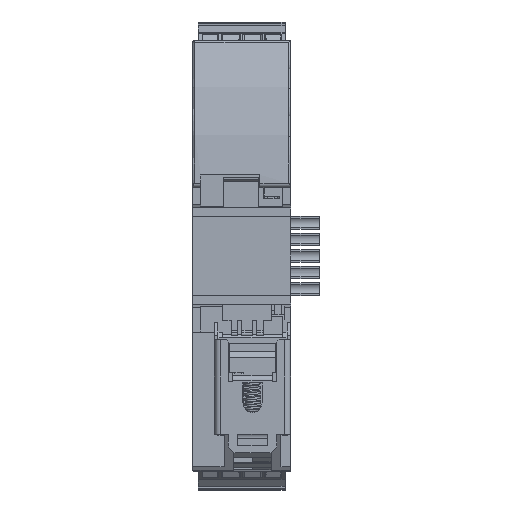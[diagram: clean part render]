
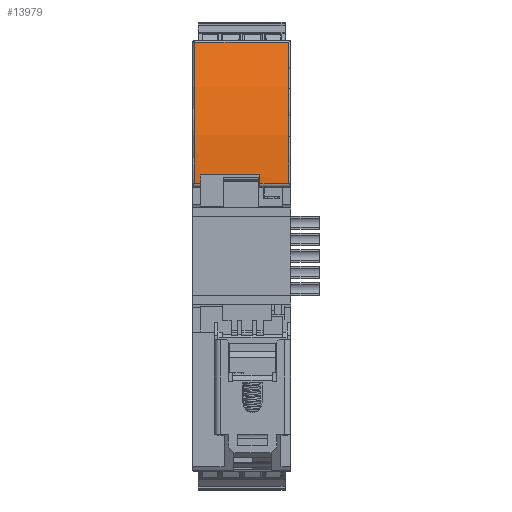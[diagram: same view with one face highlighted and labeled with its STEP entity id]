
A CAD part, left-side view. The second image highlights one B-rep face of the part: STEP entity #13979.
In plain terms, the highlighted cylindrical face has radius 80 mm (diameter 160 mm), a partial arc.
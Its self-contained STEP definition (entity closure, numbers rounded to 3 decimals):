
#13979=ADVANCED_FACE('',(#56900),#56902,.T.);
#56900=FACE_BOUND('',#56901,.T.);
#56901=EDGE_LOOP('',(#100812,#100813,#100814,#100815,#100816,#100817,#100818,#100819));
#56902=CYLINDRICAL_SURFACE('',#56903,80.);
#56903=AXIS2_PLACEMENT_3D('',#56904,#56905,#56906);
#56904=CARTESIAN_POINT('',(75.75,12.1,13.5));
#56905=DIRECTION('',(0.,-1.,0.));
#56906=DIRECTION('',(0.,0.,-1.));
#100812=ORIENTED_EDGE('',*,*,#129116,.F.);
#100813=ORIENTED_EDGE('',*,*,#129552,.T.);
#100814=ORIENTED_EDGE('',*,*,#129553,.F.);
#100815=ORIENTED_EDGE('',*,*,#124466,.F.);
#100816=ORIENTED_EDGE('',*,*,#124463,.T.);
#100817=ORIENTED_EDGE('',*,*,#129551,.T.);
#100818=ORIENTED_EDGE('',*,*,#124585,.T.);
#100819=ORIENTED_EDGE('',*,*,#124583,.T.);
#124463=EDGE_CURVE('',#142462,#142463,#142464,.T.);
#124466=EDGE_CURVE('',#142462,#142467,#142468,.T.);
#124583=EDGE_CURVE('',#142657,#142655,#142658,.T.);
#124585=EDGE_CURVE('',#142660,#142657,#142661,.T.);
#129116=EDGE_CURVE('',#150427,#142655,#150429,.T.);
#129551=EDGE_CURVE('',#142463,#142660,#151157,.T.);
#129552=EDGE_CURVE('',#150427,#151158,#151159,.T.);
#129553=EDGE_CURVE('',#142467,#151158,#151160,.T.);
#142462=VERTEX_POINT('',#178834);
#142463=VERTEX_POINT('',#178835);
#142464=CIRCLE('',#178836,80.);
#142467=VERTEX_POINT('',#178898);
#142468=LINE('',#178899,#178900);
#142655=VERTEX_POINT('',#179333);
#142657=VERTEX_POINT('',#179338);
#142658=LINE('',#179339,#179340);
#142660=VERTEX_POINT('',#179390);
#142661=CIRCLE('',#179391,80.);
#150427=VERTEX_POINT('',#198464);
#150429=CIRCLE('',#198468,80.);
#151157=LINE('',#200142,#200143);
#151158=VERTEX_POINT('',#200145);
#151159=LINE('',#200146,#200147);
#151160=CIRCLE('',#200149,80.);
#178834=CARTESIAN_POINT('',(-4.184,0.5,16.741));
#178835=CARTESIAN_POINT('',(4.169,0.5,49.223));
#178836=AXIS2_PLACEMENT_3D('',#178837,#178838,#178839);
#178837=CARTESIAN_POINT('',(75.75,0.5,13.5));
#178838=DIRECTION('',(0.,1.,0.));
#178839=DIRECTION('',(-0.999,0.,0.041));
#178898=CARTESIAN_POINT('',(-4.184,7.1,16.741));
#178899=CARTESIAN_POINT('',(-4.184,0.5,16.741));
#178900=VECTOR('',#178901,1.);
#178901=DIRECTION('',(0.,1.,0.));
#179333=CARTESIAN_POINT('',(-4.184,20.7,16.741));
#179338=CARTESIAN_POINT('',(-4.184,22.1,16.741));
#179339=CARTESIAN_POINT('',(-4.184,22.1,16.741));
#179340=VECTOR('',#179341,1.);
#179341=DIRECTION('',(0.,-1.,0.));
#179390=CARTESIAN_POINT('',(4.169,22.1,49.223));
#179391=AXIS2_PLACEMENT_3D('',#179392,#179393,#179394);
#179392=CARTESIAN_POINT('',(75.75,22.1,13.5));
#179393=DIRECTION('',(0.,-1.,0.));
#179394=DIRECTION('',(-0.895,0.,0.447));
#198464=CARTESIAN_POINT('',(-4.081,20.7,18.7));
#198468=AXIS2_PLACEMENT_3D('',#198469,#198470,#198471);
#198469=CARTESIAN_POINT('',(75.75,20.7,13.5));
#198470=DIRECTION('',(0.,-1.,0.));
#198471=DIRECTION('',(-0.998,0.,0.065));
#200142=CARTESIAN_POINT('',(4.169,0.5,49.223));
#200143=VECTOR('',#200144,1.);
#200144=DIRECTION('',(0.,1.,0.));
#200145=CARTESIAN_POINT('',(-4.081,7.1,18.7));
#200146=CARTESIAN_POINT('',(-4.081,20.7,18.7));
#200147=VECTOR('',#200148,1.);
#200148=DIRECTION('',(0.,-1.,0.));
#200149=AXIS2_PLACEMENT_3D('',#200150,#200151,#200152);
#200150=CARTESIAN_POINT('',(75.75,7.1,13.5));
#200151=DIRECTION('',(0.,1.,0.));
#200152=DIRECTION('',(-0.999,0.,0.041));
